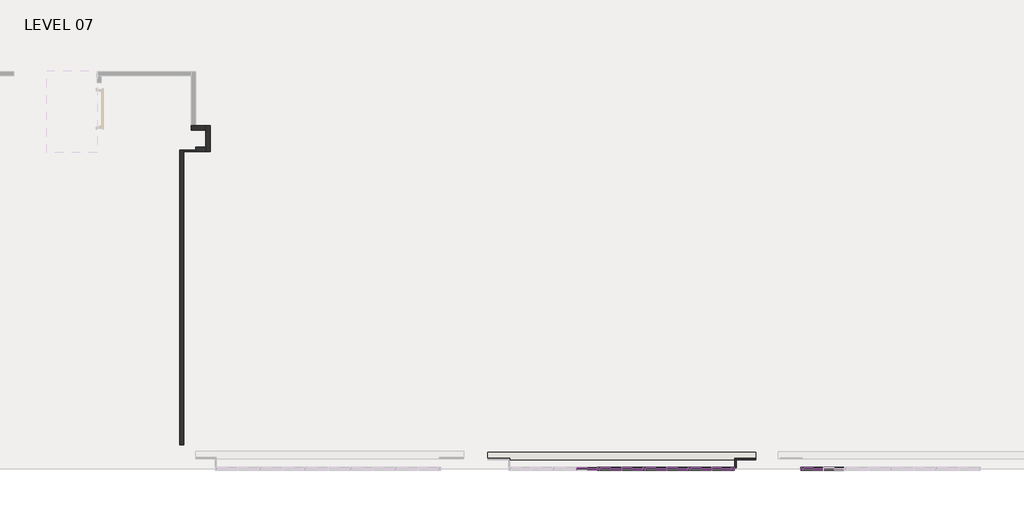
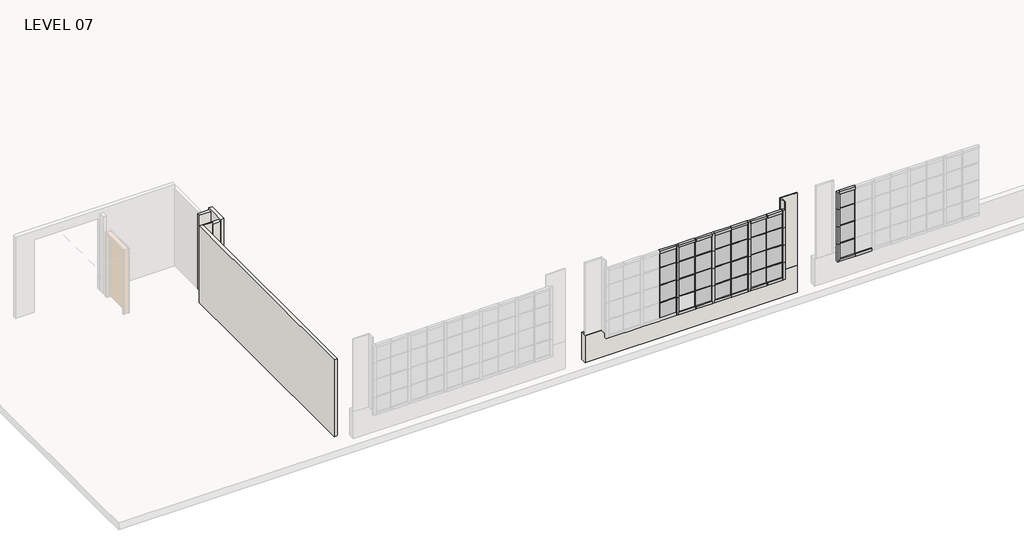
# One storey, part 4 of 15: 76 members, 31 plates, 8 walls.
"""IFC4 building model written with IfcOpenShell, lengths in millimetres."""

from ifc_helpers import new_model, si_unit, frame, origin, place, context, project, spatial, polyline, outline, extrude, faceted_brep, transform, mapped, element, save
from components import member_78bb2ef1, member_cb03ba1c, member_aa53491b, member_c1b5942e, member_9d26962d, member_378e0c06, member_17eb62f4, system_panel_glazed_79ade883, system_panel_glazed_12cc9f41, system_panel_glazed_730530c4, system_panel_glazed_b8d6571b

model = new_model("IFC4")

# Units and contexts
model_context = context("Model", 3, world=origin())
ifc_project = project(units=[si_unit("LENGTHUNIT", "METRE", prefix="MILLI")], contexts=[model_context])

# Site, building, storey
site = spatial("IfcSite", under=ifc_project)
building = spatial("IfcBuilding", under=site)
storey = spatial("IfcBuildingStorey", under=building, Name="LEVEL 07", Elevation=20802.6)

# Members
placement = place(None, origin())
member_shape = member_78bb2ef1(model_context)
element("IfcMember", 1, ObjectType="Rectangular Mullion : 1\" x 1\" - Butt Joint", at=placement, inside=storey, context=model_context, shape_type="MappedRepresentation", body=[
    mapped(member_shape, transform((-19101.3585758, -25119.8112062, 23342.6), x_axis=(1.0, 0.0, 0.0), y_axis=(0.0, -1.0, 0.0), z_axis=(0.0, 0.0, -1.0))),
])
element("IfcMember", 2, ObjectType="Rectangular Mullion : 1\" x 1\" - Butt Joint", at=placement, inside=storey, context=model_context, shape_type="MappedRepresentation", body=[
    mapped(member_shape, transform((-17963.4385758, -25119.8112062, 23342.6), x_axis=(1.0, 0.0, 0.0), y_axis=(0.0, -1.0, 0.0), z_axis=(0.0, 0.0, -1.0))),
])
element("IfcMember", 3, ObjectType="Rectangular Mullion : 1\" x 1\" - Butt Joint", at=placement, inside=storey, context=model_context, shape_type="MappedRepresentation", body=[
    mapped(member_shape, transform((-16825.5185758, -25119.8112062, 23342.6), x_axis=(1.0, 0.0, 0.0), y_axis=(0.0, -1.0, 0.0), z_axis=(0.0, 0.0, -1.0))),
])
element("IfcMember", 4, ObjectType="Rectangular Mullion : 1\" x 1\" - Butt Joint", at=placement, inside=storey, context=model_context, shape_type="MappedRepresentation", body=[
    mapped(member_shape, transform((-14017.8617677, -25119.8112062, 23342.6), x_axis=(1.0, 0.0, 0.0), y_axis=(0.0, -1.0, 0.0), z_axis=(0.0, 0.0, -1.0))),
])
member_2_shape = member_cb03ba1c(model_context)
element("IfcMember", 5, ObjectType="Rectangular Mullion : 1\" x 1\" - Butt Joint", at=placement, inside=storey, context=model_context, shape_type="MappedRepresentation", body=[
    mapped(member_2_shape, transform((-17432.5785758, -25119.8112062, 23342.6), x_axis=(0.0, 0.0, 1.0), y_axis=(0.0, -1.0, 0.0), z_axis=(1.0, 0.0, 0.0))),
])
element("IfcMember", 6, ObjectType="Rectangular Mullion : 1\" x 1\" - Butt Joint", at=placement, inside=storey, context=model_context, shape_type="MappedRepresentation", body=[
    mapped(member_2_shape, transform((-18570.4985758, -25119.8112062, 23342.6), x_axis=(0.0, 0.0, 1.0), y_axis=(0.0, -1.0, 0.0), z_axis=(1.0, 0.0, 0.0))),
])
element("IfcMember", 7, ObjectType="Rectangular Mullion : 1\" x 1\" - Butt Joint", at=placement, inside=storey, context=model_context, shape_type="MappedRepresentation", body=[
    mapped(member_2_shape, transform((-19708.4185758, -25119.8112062, 23342.6), x_axis=(0.0, 0.0, 1.0), y_axis=(0.0, -1.0, 0.0), z_axis=(1.0, 0.0, 0.0))),
])
element("IfcMember", 8, ObjectType="Rectangular Mullion : 1\" x 1\" - Butt Joint", at=placement, inside=storey, context=model_context, shape_type="MappedRepresentation", body=[
    mapped(member_2_shape, transform((-16838.2185758, -25119.8112062, 23342.6), x_axis=(0.0, 0.0, 1.0), y_axis=(0.0, -1.0, 0.0), z_axis=(1.0, 0.0, 0.0))),
])
element("IfcMember", 9, ObjectType="Rectangular Mullion : 1\" x 1\" - Butt Joint", at=placement, inside=storey, context=model_context, shape_type="MappedRepresentation", body=[
    mapped(member_2_shape, transform((-17976.1385758, -25119.8112062, 23342.6), x_axis=(0.0, 0.0, 1.0), y_axis=(0.0, -1.0, 0.0), z_axis=(1.0, 0.0, 0.0))),
])
element("IfcMember", 10, ObjectType="Rectangular Mullion : 1\" x 1\" - Butt Joint", at=placement, inside=storey, context=model_context, shape_type="MappedRepresentation", body=[
    mapped(member_2_shape, transform((-19114.0585758, -25119.8112062, 23342.6), x_axis=(0.0, 0.0, 1.0), y_axis=(0.0, -1.0, 0.0), z_axis=(1.0, 0.0, 0.0))),
])
element("IfcMember", 11, ObjectType="Rectangular Mullion : 1\" x 1\" - Butt Joint", at=placement, inside=storey, context=model_context, shape_type="MappedRepresentation", body=[
    mapped(member_2_shape, transform((-17432.5785758, -25119.8112062, 22758.4), x_axis=(0.0, 0.0, 1.0), y_axis=(0.0, -1.0, 0.0), z_axis=(1.0, 0.0, 0.0))),
])
element("IfcMember", 12, ObjectType="Rectangular Mullion : 1\" x 1\" - Butt Joint", at=placement, inside=storey, context=model_context, shape_type="MappedRepresentation", body=[
    mapped(member_2_shape, transform((-18570.4985758, -25119.8112062, 22758.4), x_axis=(0.0, 0.0, 1.0), y_axis=(0.0, -1.0, 0.0), z_axis=(1.0, 0.0, 0.0))),
])
element("IfcMember", 13, ObjectType="Rectangular Mullion : 1\" x 1\" - Butt Joint", at=placement, inside=storey, context=model_context, shape_type="MappedRepresentation", body=[
    mapped(member_2_shape, transform((-19708.4185758, -25119.8112062, 22758.4), x_axis=(0.0, 0.0, 1.0), y_axis=(0.0, -1.0, 0.0), z_axis=(1.0, 0.0, 0.0))),
])
element("IfcMember", 14, ObjectType="Rectangular Mullion : 1\" x 1\" - Butt Joint", at=placement, inside=storey, context=model_context, shape_type="MappedRepresentation", body=[
    mapped(member_2_shape, transform((-16838.2185758, -25119.8112062, 22758.4), x_axis=(0.0, 0.0, 1.0), y_axis=(0.0, -1.0, 0.0), z_axis=(1.0, 0.0, 0.0))),
])
element("IfcMember", 15, ObjectType="Rectangular Mullion : 1\" x 1\" - Butt Joint", at=placement, inside=storey, context=model_context, shape_type="MappedRepresentation", body=[
    mapped(member_2_shape, transform((-17976.1385758, -25119.8112062, 22758.4), x_axis=(0.0, 0.0, 1.0), y_axis=(0.0, -1.0, 0.0), z_axis=(1.0, 0.0, 0.0))),
])
element("IfcMember", 16, ObjectType="Rectangular Mullion : 1\" x 1\" - Butt Joint", at=placement, inside=storey, context=model_context, shape_type="MappedRepresentation", body=[
    mapped(member_2_shape, transform((-19114.0585758, -25119.8112062, 22758.4), x_axis=(0.0, 0.0, 1.0), y_axis=(0.0, -1.0, 0.0), z_axis=(1.0, 0.0, 0.0))),
])
element("IfcMember", 17, ObjectType="Rectangular Mullion : 1\" x 1\" - Butt Joint", at=placement, inside=storey, context=model_context, shape_type="MappedRepresentation", body=[
    mapped(member_2_shape, transform((-17432.5785758, -25119.8112062, 22174.2), x_axis=(0.0, 0.0, 1.0), y_axis=(0.0, -1.0, 0.0), z_axis=(1.0, 0.0, 0.0))),
])
element("IfcMember", 18, ObjectType="Rectangular Mullion : 1\" x 1\" - Butt Joint", at=placement, inside=storey, context=model_context, shape_type="MappedRepresentation", body=[
    mapped(member_2_shape, transform((-18570.4985758, -25119.8112062, 22174.2), x_axis=(0.0, 0.0, 1.0), y_axis=(0.0, -1.0, 0.0), z_axis=(1.0, 0.0, 0.0))),
])
element("IfcMember", 19, ObjectType="Rectangular Mullion : 1\" x 1\" - Butt Joint", at=placement, inside=storey, context=model_context, shape_type="MappedRepresentation", body=[
    mapped(member_2_shape, transform((-19708.4185758, -25119.8112062, 22174.2), x_axis=(0.0, 0.0, 1.0), y_axis=(0.0, -1.0, 0.0), z_axis=(1.0, 0.0, 0.0))),
])
element("IfcMember", 20, ObjectType="Rectangular Mullion : 1\" x 1\" - Butt Joint", at=placement, inside=storey, context=model_context, shape_type="MappedRepresentation", body=[
    mapped(member_2_shape, transform((-16838.2185758, -25119.8112062, 22174.2), x_axis=(0.0, 0.0, 1.0), y_axis=(0.0, -1.0, 0.0), z_axis=(1.0, 0.0, 0.0))),
])
element("IfcMember", 21, ObjectType="Rectangular Mullion : 1\" x 1\" - Butt Joint", at=placement, inside=storey, context=model_context, shape_type="MappedRepresentation", body=[
    mapped(member_2_shape, transform((-17976.1385758, -25119.8112062, 22174.2), x_axis=(0.0, 0.0, 1.0), y_axis=(0.0, -1.0, 0.0), z_axis=(1.0, 0.0, 0.0))),
])
element("IfcMember", 22, ObjectType="Rectangular Mullion : 1\" x 1\" - Butt Joint", at=placement, inside=storey, context=model_context, shape_type="MappedRepresentation", body=[
    mapped(member_2_shape, transform((-19114.0585758, -25119.8112062, 22174.2), x_axis=(0.0, 0.0, 1.0), y_axis=(0.0, -1.0, 0.0), z_axis=(1.0, 0.0, 0.0))),
])
member_3_shape = member_aa53491b(model_context)
element("IfcMember", 23, ObjectType="Rectangular Mullion : 1\" x 1\" - Butt Joint", at=placement, inside=storey, context=model_context, shape_type="MappedRepresentation", body=[
    mapped(member_3_shape, transform((-16332.7585758, -25119.8112062, 23342.6), x_axis=(0.0, 0.0, 1.0), y_axis=(0.0, -1.0, 0.0), z_axis=(1.0, 0.0, 0.0))),
])
element("IfcMember", 24, ObjectType="Rectangular Mullion : 1\" x 1\" - Butt Joint", at=placement, inside=storey, context=model_context, shape_type="MappedRepresentation", body=[
    mapped(member_3_shape, transform((-16332.7585758, -25119.8112062, 22758.4), x_axis=(0.0, 0.0, 1.0), y_axis=(0.0, -1.0, 0.0), z_axis=(1.0, 0.0, 0.0))),
])
element("IfcMember", 25, ObjectType="Rectangular Mullion : 1\" x 1\" - Butt Joint", at=placement, inside=storey, context=model_context, shape_type="MappedRepresentation", body=[
    mapped(member_3_shape, transform((-16332.7585758, -25119.8112062, 22174.2), x_axis=(0.0, 0.0, 1.0), y_axis=(0.0, -1.0, 0.0), z_axis=(1.0, 0.0, 0.0))),
])
element("IfcMember", 26, ObjectType="Rectangular Mullion : 1\" x 1\" - Butt Joint", at=placement, inside=storey, context=model_context, shape_type="MappedRepresentation", body=[
    mapped(member_3_shape, transform((-14030.5617677, -25119.8112062, 23342.6), x_axis=(0.0, 0.0, 1.0), y_axis=(0.0, -1.0, 0.0), z_axis=(1.0, 0.0, 0.0))),
])
element("IfcMember", 27, ObjectType="Rectangular Mullion : 1\" x 1\" - Butt Joint", at=placement, inside=storey, context=model_context, shape_type="MappedRepresentation", body=[
    mapped(member_3_shape, transform((-14030.5617677, -25119.8112062, 22758.4), x_axis=(0.0, 0.0, 1.0), y_axis=(0.0, -1.0, 0.0), z_axis=(1.0, 0.0, 0.0))),
])
element("IfcMember", 28, ObjectType="Rectangular Mullion : 1\" x 1\" - Butt Joint", at=placement, inside=storey, context=model_context, shape_type="MappedRepresentation", body=[
    mapped(member_3_shape, transform((-14030.5617677, -25119.8112062, 22174.2), x_axis=(0.0, 0.0, 1.0), y_axis=(0.0, -1.0, 0.0), z_axis=(1.0, 0.0, 0.0))),
])
element("IfcMember", 29, ObjectType="Rectangular Mullion : 1\" x 1\" - Butt Joint", at=placement, inside=storey, context=model_context, shape_type="MappedRepresentation", body=[
    mapped(member_shape, transform((-19101.3585758, -25119.8112062, 22758.4), x_axis=(1.0, 0.0, 0.0), y_axis=(0.0, -1.0, 0.0), z_axis=(0.0, 0.0, -1.0))),
])
element("IfcMember", 30, ObjectType="Rectangular Mullion : 1\" x 1\" - Butt Joint", at=placement, inside=storey, context=model_context, shape_type="MappedRepresentation", body=[
    mapped(member_shape, transform((-19101.3585758, -25119.8112062, 22174.2), x_axis=(1.0, 0.0, 0.0), y_axis=(0.0, -1.0, 0.0), z_axis=(0.0, 0.0, -1.0))),
])
element("IfcMember", 31, ObjectType="Rectangular Mullion : 1\" x 1\" - Butt Joint", at=placement, inside=storey, context=model_context, shape_type="MappedRepresentation", body=[
    mapped(member_shape, transform((-17963.4385758, -25119.8112062, 22758.4), x_axis=(1.0, 0.0, 0.0), y_axis=(0.0, -1.0, 0.0), z_axis=(0.0, 0.0, -1.0))),
])
element("IfcMember", 32, ObjectType="Rectangular Mullion : 1\" x 1\" - Butt Joint", at=placement, inside=storey, context=model_context, shape_type="MappedRepresentation", body=[
    mapped(member_shape, transform((-17963.4385758, -25119.8112062, 22174.2), x_axis=(1.0, 0.0, 0.0), y_axis=(0.0, -1.0, 0.0), z_axis=(0.0, 0.0, -1.0))),
])
element("IfcMember", 33, ObjectType="Rectangular Mullion : 1\" x 1\" - Butt Joint", at=placement, inside=storey, context=model_context, shape_type="MappedRepresentation", body=[
    mapped(member_shape, transform((-16825.5185758, -25119.8112062, 22758.4), x_axis=(1.0, 0.0, 0.0), y_axis=(0.0, -1.0, 0.0), z_axis=(0.0, 0.0, -1.0))),
])
element("IfcMember", 34, ObjectType="Rectangular Mullion : 1\" x 1\" - Butt Joint", at=placement, inside=storey, context=model_context, shape_type="MappedRepresentation", body=[
    mapped(member_shape, transform((-16825.5185758, -25119.8112062, 22174.2), x_axis=(1.0, 0.0, 0.0), y_axis=(0.0, -1.0, 0.0), z_axis=(0.0, 0.0, -1.0))),
])
element("IfcMember", 35, ObjectType="Rectangular Mullion : 1\" x 1\" - Butt Joint", at=placement, inside=storey, context=model_context, shape_type="MappedRepresentation", body=[
    mapped(member_shape, transform((-14017.8617677, -25119.8112062, 22758.4), x_axis=(1.0, 0.0, 0.0), y_axis=(0.0, -1.0, 0.0), z_axis=(0.0, 0.0, -1.0))),
])
element("IfcMember", 36, ObjectType="Rectangular Mullion : 1\" x 1\" - Butt Joint", at=placement, inside=storey, context=model_context, shape_type="MappedRepresentation", body=[
    mapped(member_shape, transform((-14017.8617677, -25119.8112062, 22174.2), x_axis=(1.0, 0.0, 0.0), y_axis=(0.0, -1.0, 0.0), z_axis=(0.0, 0.0, -1.0))),
])
element("IfcMember", 37, ObjectType="Rectangular Mullion : 1\" x 1\" - Butt Joint", at=placement, inside=storey, context=model_context, shape_type="MappedRepresentation", body=[
    mapped(member_shape, transform((-19101.3585758, -25119.8112062, 21590.0), x_axis=(1.0, 0.0, 0.0), y_axis=(0.0, -1.0, 0.0), z_axis=(0.0, 0.0, -1.0))),
])
element("IfcMember", 38, ObjectType="Rectangular Mullion : 1\" x 1\" - Butt Joint", at=placement, inside=storey, context=model_context, shape_type="MappedRepresentation", body=[
    mapped(member_shape, transform((-17963.4385758, -25119.8112062, 21590.0), x_axis=(1.0, 0.0, 0.0), y_axis=(0.0, -1.0, 0.0), z_axis=(0.0, 0.0, -1.0))),
])
element("IfcMember", 39, ObjectType="Rectangular Mullion : 1\" x 1\" - Butt Joint", at=placement, inside=storey, context=model_context, shape_type="MappedRepresentation", body=[
    mapped(member_shape, transform((-16825.5185758, -25119.8112062, 21590.0), x_axis=(1.0, 0.0, 0.0), y_axis=(0.0, -1.0, 0.0), z_axis=(0.0, 0.0, -1.0))),
])
element("IfcMember", 40, ObjectType="Rectangular Mullion : 1\" x 1\" - Butt Joint", at=placement, inside=storey, context=model_context, shape_type="MappedRepresentation", body=[
    mapped(member_shape, transform((-14017.8617677, -25119.8112062, 21590.0), x_axis=(1.0, 0.0, 0.0), y_axis=(0.0, -1.0, 0.0), z_axis=(0.0, 0.0, -1.0))),
])
member_4_shape = member_c1b5942e(model_context)
element("IfcMember", 41, ObjectType="Rectangular Mullion : 3\" x 3\" Window Jamb", at=placement, inside=storey, context=model_context, shape_type="MappedRepresentation", body=[
    mapped(member_4_shape, transform((-17950.7385758, -25119.8112062, 21590.0), x_axis=(0.0, 0.0, -1.0), y_axis=(0.0, -1.0, 0.0), z_axis=(-1.0, 0.0, 0.0))),
])
element("IfcMember", 42, ObjectType="Rectangular Mullion : 3\" x 3\" Window Jamb", at=placement, inside=storey, context=model_context, shape_type="MappedRepresentation", body=[
    mapped(member_4_shape, transform((-19088.6585758, -25119.8112062, 21590.0), x_axis=(0.0, 0.0, -1.0), y_axis=(0.0, -1.0, 0.0), z_axis=(-1.0, 0.0, 0.0))),
])
element("IfcMember", 43, ObjectType="Rectangular Mullion : 3\" x 3\" Window Jamb", at=placement, inside=storey, context=model_context, shape_type="MappedRepresentation", body=[
    mapped(member_4_shape, transform((-17356.3785758, -25119.8112062, 21590.0), x_axis=(0.0, 0.0, -1.0), y_axis=(0.0, -1.0, 0.0), z_axis=(-1.0, 0.0, 0.0))),
])
element("IfcMember", 44, ObjectType="Rectangular Mullion : 3\" x 3\" Window Jamb", at=placement, inside=storey, context=model_context, shape_type="MappedRepresentation", body=[
    mapped(member_4_shape, transform((-18494.2985758, -25119.8112062, 21590.0), x_axis=(0.0, 0.0, -1.0), y_axis=(0.0, -1.0, 0.0), z_axis=(-1.0, 0.0, 0.0))),
])
element("IfcMember", 45, ObjectType="Rectangular Mullion : 3\" x 3\" Window Jamb", at=placement, inside=storey, context=model_context, shape_type="MappedRepresentation", body=[
    mapped(member_4_shape, transform((-19632.2185758, -25119.8112062, 21590.0), x_axis=(0.0, 0.0, -1.0), y_axis=(0.0, -1.0, 0.0), z_axis=(-1.0, 0.0, 0.0))),
])
element("IfcMember", 46, ObjectType="Rectangular Mullion : 3\" x 3\" Window Jamb", at=placement, inside=storey, context=model_context, shape_type="MappedRepresentation", body=[
    mapped(member_4_shape, transform((-14005.1617677, -25119.8112062, 21590.0), x_axis=(0.0, 0.0, -1.0), y_axis=(0.0, -1.0, 0.0), z_axis=(-1.0, 0.0, 0.0))),
])
member_5_shape = member_9d26962d(model_context)
element("IfcMember", 47, ObjectType="Rectangular Mullion : 3\" x 3\" Window Jamb", at=placement, inside=storey, context=model_context, shape_type="MappedRepresentation", body=[
    mapped(member_5_shape, transform((-16812.8185758, -25119.8112062, 21590.0), x_axis=(0.0, 0.0, -1.0), y_axis=(0.0, -1.0, 0.0), z_axis=(-1.0, 0.0, 0.0))),
])
element("IfcMember", 48, ObjectType="Rectangular Mullion : 3\" x 3\" Window Jamb", at=placement, inside=storey, context=model_context, shape_type="MappedRepresentation", body=[
    mapped(member_5_shape, transform((-14510.6217677, -25119.8112062, 21590.0), x_axis=(0.0, 0.0, -1.0), y_axis=(0.0, -1.0, 0.0), z_axis=(-1.0, 0.0, 0.0))),
])
element("IfcMember", 49, ObjectType="Rectangular Mullion : 3\" x 3\" Window Jamb", at=placement, inside=storey, context=model_context, shape_type="MappedRepresentation", body=[
    mapped(member_5_shape, transform((-16332.7585758, -25119.8112062, 23926.8), x_axis=(0.0, 0.0, 1.0), y_axis=(0.0, -1.0, 0.0), z_axis=(1.0, 0.0, 0.0))),
])
element("IfcMember", 50, ObjectType="Rectangular Mullion : 3\" x 3\" Window Jamb", at=placement, inside=storey, context=model_context, shape_type="MappedRepresentation", body=[
    mapped(member_5_shape, transform((-14030.5617677, -25119.8112062, 23926.8), x_axis=(0.0, 0.0, 1.0), y_axis=(0.0, -1.0, 0.0), z_axis=(1.0, 0.0, 0.0))),
])
element("IfcMember", 51, ObjectType="Rectangular Mullion : 3\" x 3\" Window Jamb", at=placement, inside=storey, context=model_context, shape_type="MappedRepresentation", body=[
    mapped(member_4_shape, transform((-16838.2185758, -25119.8112062, 23926.8), x_axis=(0.0, 0.0, 1.0), y_axis=(0.0, -1.0, 0.0), z_axis=(1.0, 0.0, 0.0))),
])
element("IfcMember", 52, ObjectType="Rectangular Mullion : 3\" x 3\" Window Jamb", at=placement, inside=storey, context=model_context, shape_type="MappedRepresentation", body=[
    mapped(member_4_shape, transform((-17976.1385758, -25119.8112062, 23926.8), x_axis=(0.0, 0.0, 1.0), y_axis=(0.0, -1.0, 0.0), z_axis=(1.0, 0.0, 0.0))),
])
element("IfcMember", 53, ObjectType="Rectangular Mullion : 3\" x 3\" Window Jamb", at=placement, inside=storey, context=model_context, shape_type="MappedRepresentation", body=[
    mapped(member_4_shape, transform((-19114.0585758, -25119.8112062, 23926.8), x_axis=(0.0, 0.0, 1.0), y_axis=(0.0, -1.0, 0.0), z_axis=(1.0, 0.0, 0.0))),
])
element("IfcMember", 54, ObjectType="Rectangular Mullion : 3\" x 3\" Window Jamb", at=placement, inside=storey, context=model_context, shape_type="MappedRepresentation", body=[
    mapped(member_4_shape, transform((-17432.5785758, -25119.8112062, 23926.8), x_axis=(0.0, 0.0, 1.0), y_axis=(0.0, -1.0, 0.0), z_axis=(1.0, 0.0, 0.0))),
])
element("IfcMember", 55, ObjectType="Rectangular Mullion : 3\" x 3\" Window Jamb", at=placement, inside=storey, context=model_context, shape_type="MappedRepresentation", body=[
    mapped(member_4_shape, transform((-18570.4985758, -25119.8112062, 23926.8), x_axis=(0.0, 0.0, 1.0), y_axis=(0.0, -1.0, 0.0), z_axis=(1.0, 0.0, 0.0))),
])
element("IfcMember", 56, ObjectType="Rectangular Mullion : 3\" x 3\" Window Jamb", at=placement, inside=storey, context=model_context, shape_type="MappedRepresentation", body=[
    mapped(member_4_shape, transform((-19708.4185758, -25119.8112062, 23926.8), x_axis=(0.0, 0.0, 1.0), y_axis=(0.0, -1.0, 0.0), z_axis=(1.0, 0.0, 0.0))),
])
member_6_shape = member_378e0c06(model_context)
element("IfcMember", 57, ObjectType="Rectangular Mullion : 3\" x 3\" Window Jamb", at=placement, inside=storey, context=model_context, shape_type="MappedRepresentation", body=[
    mapped(member_6_shape, transform((-19670.3185758, -25119.8112062, 23342.6), x_axis=(1.0, 0.0, 0.0), y_axis=(0.0, -1.0, 0.0), z_axis=(0.0, 0.0, -1.0))),
])
element("IfcMember", 58, ObjectType="Rectangular Mullion : 3\" x 3\" Window Jamb", at=placement, inside=storey, context=model_context, shape_type="MappedRepresentation", body=[
    mapped(member_6_shape, transform((-18532.3985758, -25119.8112062, 23342.6), x_axis=(1.0, 0.0, 0.0), y_axis=(0.0, -1.0, 0.0), z_axis=(0.0, 0.0, -1.0))),
])
element("IfcMember", 59, ObjectType="Rectangular Mullion : 3\" x 3\" Window Jamb", at=placement, inside=storey, context=model_context, shape_type="MappedRepresentation", body=[
    mapped(member_6_shape, transform((-17394.4785758, -25119.8112062, 23342.6), x_axis=(1.0, 0.0, 0.0), y_axis=(0.0, -1.0, 0.0), z_axis=(0.0, 0.0, -1.0))),
])
member_7_shape = member_17eb62f4(model_context)
element("IfcMember", 60, ObjectType="Rectangular Mullion : 3\" x 3\" Window Jamb", at=placement, inside=storey, context=model_context, shape_type="MappedRepresentation", body=[
    mapped(member_7_shape, transform((-16256.5585758, -25119.8112062, 23342.6), x_axis=(1.0, 0.0, 0.0), y_axis=(0.0, -1.0, 0.0), z_axis=(0.0, 0.0, -1.0))),
])
element("IfcMember", 61, ObjectType="Rectangular Mullion : 3\" x 3\" Window Jamb", at=placement, inside=storey, context=model_context, shape_type="MappedRepresentation", body=[
    mapped(member_7_shape, transform((-14586.8217677, -25119.8112062, 23926.8), x_axis=(-1.0, 0.0, 0.0), y_axis=(0.0, -1.0, 0.0), z_axis=(0.0, 0.0, 1.0))),
])
element("IfcMember", 62, ObjectType="Rectangular Mullion : 3\" x 3\" Window Jamb", at=placement, inside=storey, context=model_context, shape_type="MappedRepresentation", body=[
    mapped(member_6_shape, transform((-19670.3185758, -25119.8112062, 22758.4), x_axis=(1.0, 0.0, 0.0), y_axis=(0.0, -1.0, 0.0), z_axis=(0.0, 0.0, -1.0))),
])
element("IfcMember", 63, ObjectType="Rectangular Mullion : 3\" x 3\" Window Jamb", at=placement, inside=storey, context=model_context, shape_type="MappedRepresentation", body=[
    mapped(member_6_shape, transform((-19670.3185758, -25119.8112062, 22174.2), x_axis=(1.0, 0.0, 0.0), y_axis=(0.0, -1.0, 0.0), z_axis=(0.0, 0.0, -1.0))),
])
element("IfcMember", 64, ObjectType="Rectangular Mullion : 3\" x 3\" Window Jamb", at=placement, inside=storey, context=model_context, shape_type="MappedRepresentation", body=[
    mapped(member_6_shape, transform((-18532.3985758, -25119.8112062, 22758.4), x_axis=(1.0, 0.0, 0.0), y_axis=(0.0, -1.0, 0.0), z_axis=(0.0, 0.0, -1.0))),
])
element("IfcMember", 65, ObjectType="Rectangular Mullion : 3\" x 3\" Window Jamb", at=placement, inside=storey, context=model_context, shape_type="MappedRepresentation", body=[
    mapped(member_6_shape, transform((-18532.3985758, -25119.8112062, 22174.2), x_axis=(1.0, 0.0, 0.0), y_axis=(0.0, -1.0, 0.0), z_axis=(0.0, 0.0, -1.0))),
])
element("IfcMember", 66, ObjectType="Rectangular Mullion : 3\" x 3\" Window Jamb", at=placement, inside=storey, context=model_context, shape_type="MappedRepresentation", body=[
    mapped(member_6_shape, transform((-17394.4785758, -25119.8112062, 22758.4), x_axis=(1.0, 0.0, 0.0), y_axis=(0.0, -1.0, 0.0), z_axis=(0.0, 0.0, -1.0))),
])
element("IfcMember", 67, ObjectType="Rectangular Mullion : 3\" x 3\" Window Jamb", at=placement, inside=storey, context=model_context, shape_type="MappedRepresentation", body=[
    mapped(member_6_shape, transform((-17394.4785758, -25119.8112062, 22174.2), x_axis=(1.0, 0.0, 0.0), y_axis=(0.0, -1.0, 0.0), z_axis=(0.0, 0.0, -1.0))),
])
element("IfcMember", 68, ObjectType="Rectangular Mullion : 3\" x 3\" Window Jamb", at=placement, inside=storey, context=model_context, shape_type="MappedRepresentation", body=[
    mapped(member_7_shape, transform((-16256.5585758, -25119.8112062, 22758.4), x_axis=(1.0, 0.0, 0.0), y_axis=(0.0, -1.0, 0.0), z_axis=(0.0, 0.0, -1.0))),
])
element("IfcMember", 69, ObjectType="Rectangular Mullion : 3\" x 3\" Window Jamb", at=placement, inside=storey, context=model_context, shape_type="MappedRepresentation", body=[
    mapped(member_7_shape, transform((-16256.5585758, -25119.8112062, 22174.2), x_axis=(1.0, 0.0, 0.0), y_axis=(0.0, -1.0, 0.0), z_axis=(0.0, 0.0, -1.0))),
])
element("IfcMember", 70, ObjectType="Rectangular Mullion : 3\" x 3\" Window Jamb", at=placement, inside=storey, context=model_context, shape_type="MappedRepresentation", body=[
    mapped(member_7_shape, transform((-14586.8217677, -25119.8112062, 23342.6), x_axis=(-1.0, 0.0, 0.0), y_axis=(0.0, -1.0, 0.0), z_axis=(0.0, 0.0, 1.0))),
])
element("IfcMember", 71, ObjectType="Rectangular Mullion : 3\" x 3\" Window Jamb", at=placement, inside=storey, context=model_context, shape_type="MappedRepresentation", body=[
    mapped(member_7_shape, transform((-14586.8217677, -25119.8112062, 22758.4), x_axis=(-1.0, 0.0, 0.0), y_axis=(0.0, -1.0, 0.0), z_axis=(0.0, 0.0, 1.0))),
])
element("IfcMember", 72, ObjectType="Rectangular Mullion : 3\" x 3\" Window Jamb", at=placement, inside=storey, context=model_context, shape_type="MappedRepresentation", body=[
    mapped(member_6_shape, transform((-19670.3185758, -25119.8112062, 21590.0), x_axis=(1.0, 0.0, 0.0), y_axis=(0.0, -1.0, 0.0), z_axis=(0.0, 0.0, -1.0))),
])
element("IfcMember", 73, ObjectType="Rectangular Mullion : 3\" x 3\" Window Jamb", at=placement, inside=storey, context=model_context, shape_type="MappedRepresentation", body=[
    mapped(member_6_shape, transform((-18532.3985758, -25119.8112062, 21590.0), x_axis=(1.0, 0.0, 0.0), y_axis=(0.0, -1.0, 0.0), z_axis=(0.0, 0.0, -1.0))),
])
element("IfcMember", 74, ObjectType="Rectangular Mullion : 3\" x 3\" Window Jamb", at=placement, inside=storey, context=model_context, shape_type="MappedRepresentation", body=[
    mapped(member_6_shape, transform((-17394.4785758, -25119.8112062, 21590.0), x_axis=(1.0, 0.0, 0.0), y_axis=(0.0, -1.0, 0.0), z_axis=(0.0, 0.0, -1.0))),
])
element("IfcMember", 75, ObjectType="Rectangular Mullion : 3\" x 3\" Window Jamb", at=placement, inside=storey, context=model_context, shape_type="MappedRepresentation", body=[
    mapped(member_7_shape, transform((-16256.5585758, -25119.8112062, 21590.0), x_axis=(1.0, 0.0, 0.0), y_axis=(0.0, -1.0, 0.0), z_axis=(0.0, 0.0, -1.0))),
])
element("IfcMember", 76, ObjectType="Rectangular Mullion : 3\" x 3\" Window Jamb", at=placement, inside=storey, context=model_context, shape_type="MappedRepresentation", body=[
    mapped(member_7_shape, transform((-14586.8217677, -25119.8112062, 22174.2), x_axis=(-1.0, 0.0, 0.0), y_axis=(0.0, -1.0, 0.0), z_axis=(0.0, 0.0, 1.0))),
])

# Plates
system_panel_glazed_shape = system_panel_glazed_79ade883(model_context)
element("IfcPlate", 77, ObjectType="System Panel : Glazed", at=placement, inside=storey, context=model_context, shape_type="MappedRepresentation", body=[
    mapped(system_panel_glazed_shape, transform((-16572.7885758, -25119.8112062, 21666.2), x_axis=(1.0, 0.0, 0.0), y_axis=(0.0, 1.0, 0.0), z_axis=(0.0, 0.0, 1.0))),
])
element("IfcPlate", 78, ObjectType="System Panel : Glazed", at=placement, inside=storey, context=model_context, shape_type="MappedRepresentation", body=[
    mapped(system_panel_glazed_shape, transform((-16572.7885758, -25119.8112062, 23355.3), x_axis=(1.0, 0.0, 0.0), y_axis=(0.0, 1.0, 0.0), z_axis=(0.0, 0.0, 1.0))),
])
element("IfcPlate", 79, ObjectType="System Panel : Glazed", at=placement, inside=storey, context=model_context, shape_type="MappedRepresentation", body=[
    mapped(system_panel_glazed_shape, transform((-14270.5917677, -25119.8112062, 21666.2), x_axis=(1.0, 0.0, 0.0), y_axis=(0.0, 1.0, 0.0), z_axis=(0.0, 0.0, 1.0))),
])
element("IfcPlate", 80, ObjectType="System Panel : Glazed", at=placement, inside=storey, context=model_context, shape_type="MappedRepresentation", body=[
    mapped(system_panel_glazed_shape, transform((-14270.5917677, -25119.8112062, 23355.3), x_axis=(1.0, 0.0, 0.0), y_axis=(0.0, 1.0, 0.0), z_axis=(0.0, 0.0, 1.0))),
])
system_panel_glazed_2_shape = system_panel_glazed_12cc9f41(model_context)
element("IfcPlate", 81, ObjectType="System Panel : Glazed", at=placement, inside=storey, context=model_context, shape_type="MappedRepresentation", body=[
    mapped(system_panel_glazed_2_shape, transform((-18235.2185758, -25119.8112062, 21666.2), x_axis=(1.0, 0.0, 0.0), y_axis=(0.0, 1.0, 0.0), z_axis=(0.0, 0.0, 1.0))),
])
element("IfcPlate", 82, ObjectType="System Panel : Glazed", at=placement, inside=storey, context=model_context, shape_type="MappedRepresentation", body=[
    mapped(system_panel_glazed_2_shape, transform((-17097.2985758, -25119.8112062, 21666.2), x_axis=(1.0, 0.0, 0.0), y_axis=(0.0, 1.0, 0.0), z_axis=(0.0, 0.0, 1.0))),
])
element("IfcPlate", 83, ObjectType="System Panel : Glazed", at=placement, inside=storey, context=model_context, shape_type="MappedRepresentation", body=[
    mapped(system_panel_glazed_2_shape, transform((-19373.1385758, -25119.8112062, 23355.3), x_axis=(1.0, 0.0, 0.0), y_axis=(0.0, 1.0, 0.0), z_axis=(0.0, 0.0, 1.0))),
])
element("IfcPlate", 84, ObjectType="System Panel : Glazed", at=placement, inside=storey, context=model_context, shape_type="MappedRepresentation", body=[
    mapped(system_panel_glazed_2_shape, transform((-18235.2185758, -25119.8112062, 23355.3), x_axis=(1.0, 0.0, 0.0), y_axis=(0.0, 1.0, 0.0), z_axis=(0.0, 0.0, 1.0))),
])
element("IfcPlate", 85, ObjectType="System Panel : Glazed", at=placement, inside=storey, context=model_context, shape_type="MappedRepresentation", body=[
    mapped(system_panel_glazed_2_shape, transform((-17097.2985758, -25119.8112062, 23355.3), x_axis=(1.0, 0.0, 0.0), y_axis=(0.0, 1.0, 0.0), z_axis=(0.0, 0.0, 1.0))),
])
element("IfcPlate", 86, ObjectType="System Panel : Glazed", at=placement, inside=storey, context=model_context, shape_type="MappedRepresentation", body=[
    mapped(system_panel_glazed_2_shape, transform((-19967.4985758, -25119.8112062, 21666.2), x_axis=(1.0, 0.0, 0.0), y_axis=(0.0, 1.0, 0.0), z_axis=(0.0, 0.0, 1.0))),
])
element("IfcPlate", 87, ObjectType="System Panel : Glazed", at=placement, inside=storey, context=model_context, shape_type="MappedRepresentation", body=[
    mapped(system_panel_glazed_2_shape, transform((-19967.4985758, -25119.8112062, 23355.3), x_axis=(1.0, 0.0, 0.0), y_axis=(0.0, 1.0, 0.0), z_axis=(0.0, 0.0, 1.0))),
])
element("IfcPlate", 88, ObjectType="System Panel : Glazed", at=placement, inside=storey, context=model_context, shape_type="MappedRepresentation", body=[
    mapped(system_panel_glazed_2_shape, transform((-18829.5785758, -25119.8112062, 21666.2), x_axis=(1.0, 0.0, 0.0), y_axis=(0.0, 1.0, 0.0), z_axis=(0.0, 0.0, 1.0))),
])
element("IfcPlate", 89, ObjectType="System Panel : Glazed", at=placement, inside=storey, context=model_context, shape_type="MappedRepresentation", body=[
    mapped(system_panel_glazed_2_shape, transform((-18829.5785758, -25119.8112062, 23355.3), x_axis=(1.0, 0.0, 0.0), y_axis=(0.0, 1.0, 0.0), z_axis=(0.0, 0.0, 1.0))),
])
element("IfcPlate", 90, ObjectType="System Panel : Glazed", at=placement, inside=storey, context=model_context, shape_type="MappedRepresentation", body=[
    mapped(system_panel_glazed_2_shape, transform((-17691.6585758, -25119.8112062, 21666.2), x_axis=(1.0, 0.0, 0.0), y_axis=(0.0, 1.0, 0.0), z_axis=(0.0, 0.0, 1.0))),
])
element("IfcPlate", 91, ObjectType="System Panel : Glazed", at=placement, inside=storey, context=model_context, shape_type="MappedRepresentation", body=[
    mapped(system_panel_glazed_2_shape, transform((-17691.6585758, -25119.8112062, 23355.3), x_axis=(1.0, 0.0, 0.0), y_axis=(0.0, 1.0, 0.0), z_axis=(0.0, 0.0, 1.0))),
])
system_panel_glazed_3_shape = system_panel_glazed_730530c4(model_context)
element("IfcPlate", 92, ObjectType="System Panel : Glazed", at=placement, inside=storey, context=model_context, shape_type="MappedRepresentation", body=[
    mapped(system_panel_glazed_3_shape, transform((-16572.7885758, -25119.8112062, 22186.9), x_axis=(1.0, 0.0, 0.0), y_axis=(0.0, 1.0, 0.0), z_axis=(0.0, 0.0, 1.0))),
])
element("IfcPlate", 93, ObjectType="System Panel : Glazed", at=placement, inside=storey, context=model_context, shape_type="MappedRepresentation", body=[
    mapped(system_panel_glazed_3_shape, transform((-16572.7885758, -25119.8112062, 22771.1), x_axis=(1.0, 0.0, 0.0), y_axis=(0.0, 1.0, 0.0), z_axis=(0.0, 0.0, 1.0))),
])
element("IfcPlate", 94, ObjectType="System Panel : Glazed", at=placement, inside=storey, context=model_context, shape_type="MappedRepresentation", body=[
    mapped(system_panel_glazed_3_shape, transform((-14270.5917677, -25119.8112062, 22186.9), x_axis=(1.0, 0.0, 0.0), y_axis=(0.0, 1.0, 0.0), z_axis=(0.0, 0.0, 1.0))),
])
element("IfcPlate", 95, ObjectType="System Panel : Glazed", at=placement, inside=storey, context=model_context, shape_type="MappedRepresentation", body=[
    mapped(system_panel_glazed_3_shape, transform((-14270.5917677, -25119.8112062, 22771.1), x_axis=(1.0, 0.0, 0.0), y_axis=(0.0, 1.0, 0.0), z_axis=(0.0, 0.0, 1.0))),
])
system_panel_glazed_4_shape = system_panel_glazed_b8d6571b(model_context)
element("IfcPlate", 96, ObjectType="System Panel : Glazed", at=placement, inside=storey, context=model_context, shape_type="MappedRepresentation", body=[
    mapped(system_panel_glazed_4_shape, transform((-19373.1385758, -25119.8112062, 22186.9), x_axis=(1.0, 0.0, 0.0), y_axis=(0.0, 1.0, 0.0), z_axis=(0.0, 0.0, 1.0))),
])
element("IfcPlate", 97, ObjectType="System Panel : Glazed", at=placement, inside=storey, context=model_context, shape_type="MappedRepresentation", body=[
    mapped(system_panel_glazed_4_shape, transform((-18235.2185758, -25119.8112062, 22186.9), x_axis=(1.0, 0.0, 0.0), y_axis=(0.0, 1.0, 0.0), z_axis=(0.0, 0.0, 1.0))),
])
element("IfcPlate", 98, ObjectType="System Panel : Glazed", at=placement, inside=storey, context=model_context, shape_type="MappedRepresentation", body=[
    mapped(system_panel_glazed_4_shape, transform((-17097.2985758, -25119.8112062, 22186.9), x_axis=(1.0, 0.0, 0.0), y_axis=(0.0, 1.0, 0.0), z_axis=(0.0, 0.0, 1.0))),
])
element("IfcPlate", 99, ObjectType="System Panel : Glazed", at=placement, inside=storey, context=model_context, shape_type="MappedRepresentation", body=[
    mapped(system_panel_glazed_4_shape, transform((-19373.1385758, -25119.8112062, 22771.1), x_axis=(1.0, 0.0, 0.0), y_axis=(0.0, 1.0, 0.0), z_axis=(0.0, 0.0, 1.0))),
])
element("IfcPlate", 100, ObjectType="System Panel : Glazed", at=placement, inside=storey, context=model_context, shape_type="MappedRepresentation", body=[
    mapped(system_panel_glazed_4_shape, transform((-18235.2185758, -25119.8112062, 22771.1), x_axis=(1.0, 0.0, 0.0), y_axis=(0.0, 1.0, 0.0), z_axis=(0.0, 0.0, 1.0))),
])
element("IfcPlate", 101, ObjectType="System Panel : Glazed", at=placement, inside=storey, context=model_context, shape_type="MappedRepresentation", body=[
    mapped(system_panel_glazed_4_shape, transform((-17097.2985758, -25119.8112062, 22771.1), x_axis=(1.0, 0.0, 0.0), y_axis=(0.0, 1.0, 0.0), z_axis=(0.0, 0.0, 1.0))),
])
element("IfcPlate", 102, ObjectType="System Panel : Glazed", at=placement, inside=storey, context=model_context, shape_type="MappedRepresentation", body=[
    mapped(system_panel_glazed_4_shape, transform((-19967.4985758, -25119.8112062, 22186.9), x_axis=(1.0, 0.0, 0.0), y_axis=(0.0, 1.0, 0.0), z_axis=(0.0, 0.0, 1.0))),
])
element("IfcPlate", 103, ObjectType="System Panel : Glazed", at=placement, inside=storey, context=model_context, shape_type="MappedRepresentation", body=[
    mapped(system_panel_glazed_4_shape, transform((-19967.4985758, -25119.8112062, 22771.1), x_axis=(1.0, 0.0, 0.0), y_axis=(0.0, 1.0, 0.0), z_axis=(0.0, 0.0, 1.0))),
])
element("IfcPlate", 104, ObjectType="System Panel : Glazed", at=placement, inside=storey, context=model_context, shape_type="MappedRepresentation", body=[
    mapped(system_panel_glazed_4_shape, transform((-18829.5785758, -25119.8112062, 22186.9), x_axis=(1.0, 0.0, 0.0), y_axis=(0.0, 1.0, 0.0), z_axis=(0.0, 0.0, 1.0))),
])
element("IfcPlate", 105, ObjectType="System Panel : Glazed", at=placement, inside=storey, context=model_context, shape_type="MappedRepresentation", body=[
    mapped(system_panel_glazed_4_shape, transform((-18829.5785758, -25119.8112062, 22771.1), x_axis=(1.0, 0.0, 0.0), y_axis=(0.0, 1.0, 0.0), z_axis=(0.0, 0.0, 1.0))),
])
element("IfcPlate", 106, ObjectType="System Panel : Glazed", at=placement, inside=storey, context=model_context, shape_type="MappedRepresentation", body=[
    mapped(system_panel_glazed_4_shape, transform((-17691.6585758, -25119.8112062, 22186.9), x_axis=(1.0, 0.0, 0.0), y_axis=(0.0, 1.0, 0.0), z_axis=(0.0, 0.0, 1.0))),
])
element("IfcPlate", 107, ObjectType="System Panel : Glazed", at=placement, inside=storey, context=model_context, shape_type="MappedRepresentation", body=[
    mapped(system_panel_glazed_4_shape, transform((-17691.6585758, -25119.8112062, 22771.1), x_axis=(1.0, 0.0, 0.0), y_axis=(0.0, 1.0, 0.0), z_axis=(0.0, 0.0, 1.0))),
])

# Walls
element("IfcWall", 108, ObjectType="Partition A6_", at=placement, inside=storey, context=model_context, shape_type="SweptSolid", body=[
    extrude(outline(polyline([(-15717.4349596, -24903.058955), (-22467.4849596, -24903.058955), (-22467.4849596, -24718.908955), (-15717.4349596, -24718.908955), (-15717.4349596, -24903.058955)])), frame((0.0, 0.0, 20802.6), z_axis=(0.0, 0.0, 1.0), x_axis=(1.0, 0.0, 0.0)), (0.0, 0.0, 1.0), 914.4),
])
element("IfcWall", 109, ObjectType="Partition D3A", at=placement, inside=storey, context=model_context, shape_type="Brep", body=[
    faceted_brep([(-30125.5849596, -24526.3101345, 20802.6), (-30125.5849596, -17131.7356631, 20802.6), (-30125.5849596, -17096.8106631, 20802.6), (-30125.5849596, -17096.8106631, 23393.4), (-30125.5849596, -17131.7356631, 23393.4), (-30125.5849596, -24526.3101345, 23393.4), (-30233.5349596, -24526.3101345, 20802.6), (-30233.5349596, -24526.3101345, 23393.4), (-30233.5349596, -17096.8106631, 23393.4), (-30233.5349596, -17096.8106631, 20802.6)], [[[0, 1, 2, 3, 4, 5]], [[6, 7, 8, 9]], [[2, 1, 0, 6, 9]], [[5, 4, 3, 8, 7]], [[0, 5, 7, 6]], [[3, 2, 9, 8]]]),
])
element("IfcWall", 110, ObjectType="Partition D3A", at=placement, inside=storey, context=model_context, shape_type="Brep", body=[
    faceted_brep([(-29574.0960758, -16487.2106631, 20802.6), (-29574.0960758, -16595.1606631, 20802.6), (-29574.0960758, -17023.7856631, 20802.6), (-29574.0960758, -17131.7356631, 20802.6), (-29574.0960758, -17131.7356631, 23329.9), (-29574.0960758, -17131.7356631, 23393.4), (-29574.0960758, -16487.2106631, 23393.4), (-29574.0960758, -16487.2106631, 23329.9), (-29466.1460758, -16487.2106631, 20802.6), (-29466.1460758, -16487.2106631, 23393.4), (-29466.1460758, -17131.7356631, 23393.4), (-29466.1460758, -17131.7356631, 20802.6)], [[[0, 1, 2, 3, 4, 5, 6, 7]], [[8, 9, 10, 11]], [[3, 2, 1, 0, 8, 11]], [[6, 5, 10, 9]], [[5, 4, 3, 11, 10]], [[0, 7, 6, 9, 8]]]),
])
element("IfcWall", 111, ObjectType="Partition D3A", at=placement, inside=storey, context=model_context, shape_type="Brep", body=[
    faceted_brep([(-29574.0960758, -17023.7856631, 20802.6), (-29827.1349596, -17023.7856631, 20802.6), (-29827.1349596, -17023.7856631, 23329.9), (-29574.0960758, -17023.7856631, 23329.9), (-29574.0960758, -17131.7356631, 20802.6), (-29574.0960758, -17131.7356631, 23329.9), (-29827.1349596, -17131.7356631, 23329.9), (-29827.1349596, -17131.7356631, 20802.6), (-29827.1349596, -17096.8106631, 20802.6)], [[[0, 1, 2, 3]], [[4, 5, 6, 7]], [[1, 0, 4, 7, 8]], [[2, 1, 8, 7, 6]], [[3, 2, 6, 5]], [[0, 3, 5, 4]]]),
])
element("IfcWall", 112, ObjectType="Partition D3A", at=placement, inside=storey, context=model_context, shape_type="Brep", body=[
    faceted_brep([(-29935.0849596, -16595.1606631, 20802.6), (-29574.0960758, -16595.1606631, 20802.6), (-29574.0960758, -16595.1606631, 23329.9), (-29935.0849596, -16595.1606631, 23329.9), (-29935.0849596, -16487.2106631, 20802.6), (-29935.0849596, -16487.2106631, 23329.9), (-29574.0960758, -16487.2106631, 23329.9), (-29574.0960758, -16487.2106631, 20802.6), (-29827.1349596, -16487.2106631, 20802.6)], [[[0, 1, 2, 3]], [[4, 5, 6, 7, 8]], [[1, 0, 4, 8, 7]], [[3, 2, 6, 5]], [[2, 1, 7, 6]], [[0, 3, 5, 4]]]),
])
element("IfcWall", 113, ObjectType="Partition F0_", at=placement, inside=storey, context=model_context, shape_type="Brep", body=[
    faceted_brep([(-30125.5849596, -17131.7356631, 20802.6), (-29827.1349596, -17131.7356631, 20802.6), (-29827.1349596, -17131.7356631, 23329.9), (-29827.1349596, -17131.7356631, 23393.4), (-30125.5849596, -17131.7356631, 23393.4), (-30125.5849596, -17096.8106631, 20802.6), (-30125.5849596, -17096.8106631, 23393.4), (-29827.1349596, -17096.8106631, 23393.4), (-29827.1349596, -17096.8106631, 20802.6)], [[[0, 1, 2, 3, 4]], [[5, 6, 7, 8]], [[1, 0, 5, 8]], [[3, 2, 1, 8, 7]], [[4, 3, 7, 6]], [[0, 4, 6, 5]]]),
])
element("IfcWall", 114, ObjectType="Partition F0_", at=placement, inside=storey, context=model_context, shape_type="Brep", body=[
    faceted_brep([(-16252.3238573, -24903.058955, 21717.0), (-16217.3988573, -24903.058955, 21717.0), (-15717.4349596, -24903.058955, 21717.0), (-15717.4349596, -24903.058955, 24155.4), (-16217.3988573, -24903.058955, 24155.4), (-16252.3238573, -24903.058955, 24155.4), (-16252.3238573, -24868.133955, 21717.0), (-16252.3238573, -24868.133955, 24155.4), (-15717.4349596, -24868.133955, 24155.4), (-15717.4349596, -24868.133955, 21717.0)], [[[0, 1, 2, 3, 4, 5]], [[6, 7, 8, 9]], [[2, 1, 0, 6, 9]], [[3, 2, 9, 8]], [[5, 4, 3, 8, 7]], [[0, 5, 7, 6]]]),
])
element("IfcWall", 115, ObjectType="Partition F0_", at=placement, inside=storey, context=model_context, shape_type="SweptSolid", body=[
    extrude(outline(polyline([(-16217.3988573, -24903.058955), (-16217.3988573, -25103.083955), (-16252.3238573, -25103.083955), (-16252.3238573, -24903.058955), (-16217.3988573, -24903.058955)])), frame((0.0, 0.0, 21717.0), z_axis=(0.0, 0.0, 1.0), x_axis=(1.0, 0.0, 0.0)), (0.0, 0.0, 1.0), 2438.4),
])

save(model, "model.ifc")
